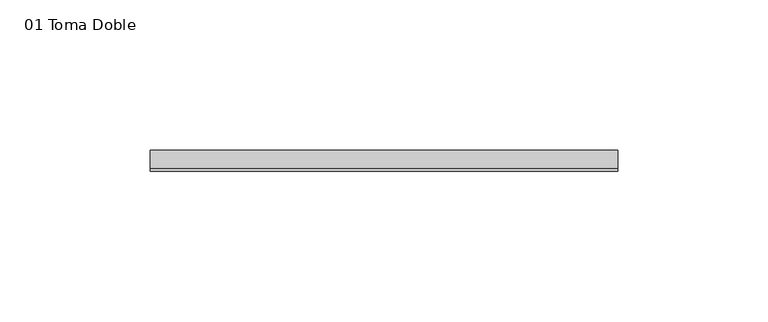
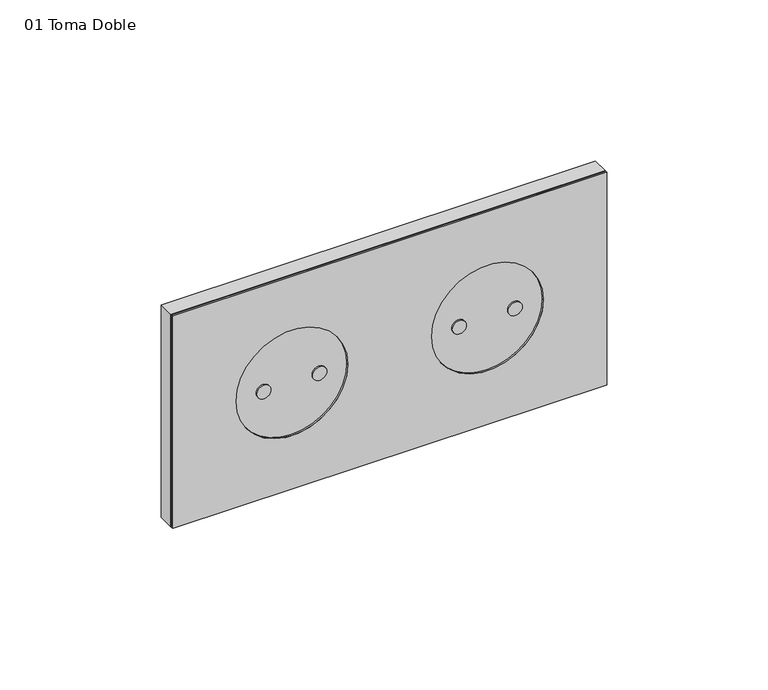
"""IFC4 building model written with IfcOpenShell, lengths in millimetres: proxy geometry, ZYR_05.02.02 Presa Doble : 01 Toma Doble."""

from ifc_helpers import new_model, si_unit, point, frame, frame_2d, origin, place, context, project, spatial, polyline, circle_curve, trimmed, segment, composite_curve, outline, extrude, source, transform, mapped, element, save


def proxy_01_toma_doble_526f9abd(model_context):
    return source(origin(), model_context, "Body", "SweptSolid", [
        extrude(outline(polyline([(77.75, -6.0), (-77.75, -6.0), (-77.75, 0.0), (77.75, 0.0), (77.75, -6.0)])), frame((0.0, 0.0, -40.25), z_axis=(0.0, 0.0, 1.0), x_axis=(1.0, 0.0, 0.0)), (0.0, 0.0, 1.0), 80.5),
        extrude(outline(polyline([(-40.25, -77.75), (-40.25, 77.75), (40.25, 77.75), (40.25, -77.75), (-40.25, -77.75)]), holes=[composite_curve([segment(trimmed(circle_curve(frame_2d((0.0, -35.0004502)), 20.0), [point((0.0, -55.0004502))], [point((0.0, -15.0004502))], True, "CARTESIAN"), True, "CONTINUOUS"), segment(trimmed(circle_curve(frame_2d((0.0, -35.0004502)), 20.0), [point((0.0, -15.0004502))], [point((0.0, -55.0004502))], True, "CARTESIAN"), True, "CONTINUOUS")], self_intersect=False), composite_curve([segment(trimmed(circle_curve(frame_2d((0.0, 35.0004502)), 20.0), [point((0.0, 15.0004502))], [point((0.0, 55.0004502))], True, "CARTESIAN"), True, "CONTINUOUS"), segment(trimmed(circle_curve(frame_2d((0.0, 35.0004502)), 20.0), [point((0.0, 55.0004502))], [point((0.0, 15.0004502))], True, "CARTESIAN"), True, "CONTINUOUS")], self_intersect=False)]), frame((0.0, -7.0, 0.0), z_axis=(0.0, 1.0, 0.0), x_axis=(0.0, 0.0, 1.0)), (0.0, 0.0, 1.0), 1.0),
        extrude(outline(composite_curve([segment(trimmed(circle_curve(frame_2d((0.0, -45.0004502)), 2.5), [point((0.0, -47.5004502))], [point((0.0, -42.5004502))], False, "CARTESIAN"), True, "CONTINUOUS"), segment(trimmed(circle_curve(frame_2d((0.0, -45.0004502)), 2.5), [point((0.0, -42.5004502))], [point((0.0, -47.5004502))], False, "CARTESIAN"), True, "CONTINUOUS")], self_intersect=False)), frame((0.0, -7.0, 0.0), z_axis=(0.0, 1.0, 0.0), x_axis=(0.0, 0.0, 1.0)), (0.0, 0.0, 1.0), 1.0),
        extrude(outline(composite_curve([segment(trimmed(circle_curve(frame_2d((0.0, -25.0004502)), 2.5), [point((0.0, -27.5004502))], [point((0.0, -22.5004502))], False, "CARTESIAN"), True, "CONTINUOUS"), segment(trimmed(circle_curve(frame_2d((0.0, -25.0004502)), 2.5), [point((0.0, -22.5004502))], [point((0.0, -27.5004502))], False, "CARTESIAN"), True, "CONTINUOUS")], self_intersect=False)), frame((0.0, -7.0, 0.0), z_axis=(0.0, 1.0, 0.0), x_axis=(0.0, 0.0, 1.0)), (0.0, 0.0, 1.0), 1.0),
        extrude(outline(composite_curve([segment(trimmed(circle_curve(frame_2d((0.0, 25.0004502)), 2.5), [point((0.0, 22.5004502))], [point((0.0, 27.5004502))], False, "CARTESIAN"), True, "CONTINUOUS"), segment(trimmed(circle_curve(frame_2d((0.0, 25.0004502)), 2.5), [point((0.0, 27.5004502))], [point((0.0, 22.5004502))], False, "CARTESIAN"), True, "CONTINUOUS")], self_intersect=False)), frame((0.0, -7.0, 0.0), z_axis=(0.0, 1.0, 0.0), x_axis=(0.0, 0.0, 1.0)), (0.0, 0.0, 1.0), 1.0),
        extrude(outline(composite_curve([segment(trimmed(circle_curve(frame_2d((0.0, 45.0004502)), 2.5), [point((0.0, 42.5004502))], [point((0.0, 47.5004502))], False, "CARTESIAN"), True, "CONTINUOUS"), segment(trimmed(circle_curve(frame_2d((0.0, 45.0004502)), 2.5), [point((0.0, 47.5004502))], [point((0.0, 42.5004502))], False, "CARTESIAN"), True, "CONTINUOUS")], self_intersect=False)), frame((0.0, -7.0, 0.0), z_axis=(0.0, 1.0, 0.0), x_axis=(0.0, 0.0, 1.0)), (0.0, 0.0, 1.0), 1.0),
    ])


if __name__ == "__main__":
    model = new_model("IFC4")
    model_context = context("Model", 3, world=origin())
    ifc_project = project(units=[si_unit("LENGTHUNIT", "METRE", prefix="MILLI")], contexts=[model_context])
    site = spatial("IfcSite", under=ifc_project)
    building = spatial("IfcBuilding", under=site)
    placement = place(None, origin())
    proxy_01_toma_doble_shape = proxy_01_toma_doble_526f9abd(model_context)
    element("IfcBuildingElementProxy", 1, Name="ZYR_05.02.02 Presa Doble : 01 Toma Doble", ObjectType="ZYR_05.02.02 Presa Doble : 01 Toma Doble", at=placement, inside=building, context=model_context, shape_type="MappedRepresentation", body=[
        mapped(proxy_01_toma_doble_shape, transform((0.0, 0.0, 0.0), x_axis=(1.0, 0.0, 0.0), y_axis=(0.0, 1.0, 0.0), z_axis=(0.0, 0.0, 1.0))),
    ])
    save(model, "model.ifc")
